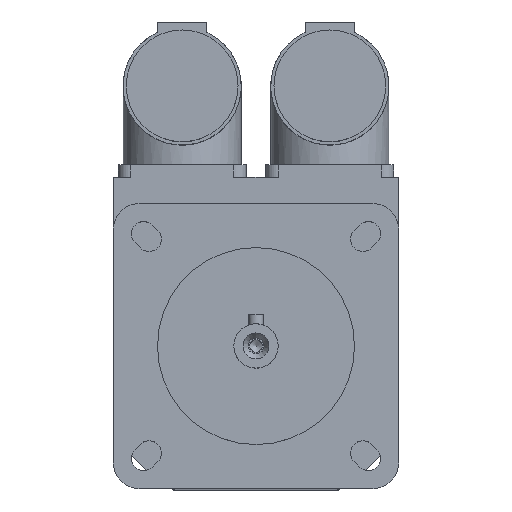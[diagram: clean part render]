
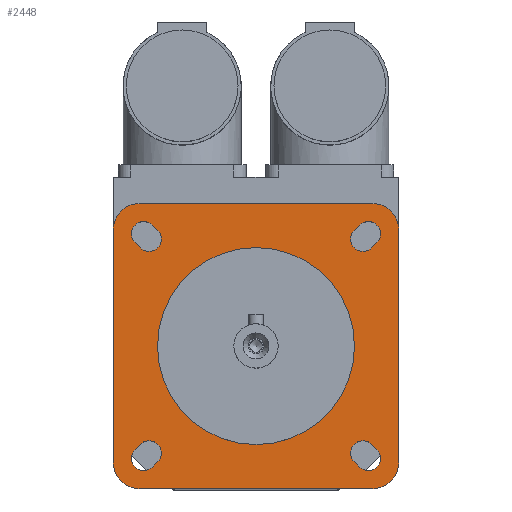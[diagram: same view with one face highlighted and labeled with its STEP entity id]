
A CAD part, top view. The second image highlights one B-rep face of the part: STEP entity #2448.
In plain terms, the highlighted planar face has unit normal (0, 0, 1).
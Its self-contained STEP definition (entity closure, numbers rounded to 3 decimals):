
#94=LINE('',#3819,#315);
#102=LINE('',#3843,#323);
#106=LINE('',#3853,#327);
#110=LINE('',#3863,#331);
#126=LINE('',#3914,#347);
#128=LINE('',#3920,#349);
#130=LINE('',#3926,#351);
#132=LINE('',#3932,#353);
#141=LINE('',#3960,#362);
#142=LINE('',#3961,#363);
#143=LINE('',#3962,#364);
#144=LINE('',#3963,#365);
#315=VECTOR('',#3029,1.5);
#323=VECTOR('',#3051,1.5);
#327=VECTOR('',#3061,1.5);
#331=VECTOR('',#3071,1.5);
#347=VECTOR('',#3117,1.5);
#349=VECTOR('',#3125,1.5);
#351=VECTOR('',#3133,1.5);
#353=VECTOR('',#3141,1.5);
#362=VECTOR('',#3172,47.);
#363=VECTOR('',#3173,47.);
#364=VECTOR('',#3174,47.);
#365=VECTOR('',#3175,47.);
#512=PLANE('',#2661);
#623=FACE_BOUND('',#851,.T.);
#624=FACE_BOUND('',#852,.T.);
#625=FACE_BOUND('',#853,.T.);
#626=FACE_BOUND('',#854,.T.);
#627=FACE_BOUND('',#855,.T.);
#699=FACE_OUTER_BOUND('',#850,.T.);
#850=EDGE_LOOP('',(#1958,#1959,#1960,#1961,#1962,#1963,#1964,#1965));
#851=EDGE_LOOP('',(#1966));
#852=EDGE_LOOP('',(#1967,#1968,#1969,#1970));
#853=EDGE_LOOP('',(#1971,#1972,#1973,#1974));
#854=EDGE_LOOP('',(#1975,#1976,#1977,#1978));
#855=EDGE_LOOP('',(#1979,#1980,#1981,#1982));
#950=CIRCLE('',#2551,20.);
#987=CIRCLE('',#2615,2.5);
#991=CIRCLE('',#2622,2.5);
#992=CIRCLE('',#2625,2.5);
#993=CIRCLE('',#2628,2.5);
#1003=CIRCLE('',#2643,2.5);
#1004=CIRCLE('',#2646,2.5);
#1005=CIRCLE('',#2649,2.5);
#1006=CIRCLE('',#2652,2.5);
#1007=CIRCLE('',#2654,5.5);
#1008=CIRCLE('',#2656,5.5);
#1009=CIRCLE('',#2658,5.5);
#1010=CIRCLE('',#2660,5.5);
#1078=VERTEX_POINT('',#3640);
#1143=VERTEX_POINT('',#3816);
#1144=VERTEX_POINT('',#3818);
#1145=VERTEX_POINT('',#3822);
#1152=VERTEX_POINT('',#3840);
#1153=VERTEX_POINT('',#3842);
#1154=VERTEX_POINT('',#3846);
#1155=VERTEX_POINT('',#3850);
#1156=VERTEX_POINT('',#3852);
#1157=VERTEX_POINT('',#3856);
#1158=VERTEX_POINT('',#3860);
#1159=VERTEX_POINT('',#3862);
#1160=VERTEX_POINT('',#3866);
#1179=VERTEX_POINT('',#3912);
#1180=VERTEX_POINT('',#3918);
#1181=VERTEX_POINT('',#3924);
#1182=VERTEX_POINT('',#3930);
#1183=VERTEX_POINT('',#3936);
#1184=VERTEX_POINT('',#3938);
#1185=VERTEX_POINT('',#3942);
#1186=VERTEX_POINT('',#3944);
#1187=VERTEX_POINT('',#3948);
#1188=VERTEX_POINT('',#3950);
#1189=VERTEX_POINT('',#3954);
#1190=VERTEX_POINT('',#3956);
#1324=EDGE_CURVE('',#1078,#1078,#950,.T.);
#1410=EDGE_CURVE('',#1144,#1143,#94,.T.);
#1413=EDGE_CURVE('',#1143,#1145,#987,.T.);
#1422=EDGE_CURVE('',#1153,#1152,#102,.T.);
#1425=EDGE_CURVE('',#1152,#1154,#991,.T.);
#1427=EDGE_CURVE('',#1156,#1155,#106,.T.);
#1430=EDGE_CURVE('',#1155,#1157,#992,.T.);
#1432=EDGE_CURVE('',#1159,#1158,#110,.T.);
#1435=EDGE_CURVE('',#1158,#1160,#993,.T.);
#1458=EDGE_CURVE('',#1157,#1179,#126,.T.);
#1459=EDGE_CURVE('',#1179,#1156,#1003,.T.);
#1461=EDGE_CURVE('',#1154,#1180,#128,.T.);
#1462=EDGE_CURVE('',#1180,#1153,#1004,.T.);
#1464=EDGE_CURVE('',#1160,#1181,#130,.T.);
#1465=EDGE_CURVE('',#1181,#1159,#1005,.T.);
#1467=EDGE_CURVE('',#1145,#1182,#132,.T.);
#1468=EDGE_CURVE('',#1182,#1144,#1006,.T.);
#1470=EDGE_CURVE('',#1184,#1183,#1007,.T.);
#1473=EDGE_CURVE('',#1186,#1185,#1008,.T.);
#1476=EDGE_CURVE('',#1188,#1187,#1009,.T.);
#1479=EDGE_CURVE('',#1190,#1189,#1010,.T.);
#1481=EDGE_CURVE('',#1183,#1190,#141,.T.);
#1482=EDGE_CURVE('',#1189,#1188,#142,.T.);
#1483=EDGE_CURVE('',#1187,#1186,#143,.T.);
#1484=EDGE_CURVE('',#1185,#1184,#144,.T.);
#1958=ORIENTED_EDGE('',*,*,#1481,.T.);
#1959=ORIENTED_EDGE('',*,*,#1479,.T.);
#1960=ORIENTED_EDGE('',*,*,#1482,.T.);
#1961=ORIENTED_EDGE('',*,*,#1476,.T.);
#1962=ORIENTED_EDGE('',*,*,#1483,.T.);
#1963=ORIENTED_EDGE('',*,*,#1473,.T.);
#1964=ORIENTED_EDGE('',*,*,#1484,.T.);
#1965=ORIENTED_EDGE('',*,*,#1470,.T.);
#1966=ORIENTED_EDGE('',*,*,#1324,.T.);
#1967=ORIENTED_EDGE('',*,*,#1458,.T.);
#1968=ORIENTED_EDGE('',*,*,#1459,.T.);
#1969=ORIENTED_EDGE('',*,*,#1427,.T.);
#1970=ORIENTED_EDGE('',*,*,#1430,.T.);
#1971=ORIENTED_EDGE('',*,*,#1461,.T.);
#1972=ORIENTED_EDGE('',*,*,#1462,.T.);
#1973=ORIENTED_EDGE('',*,*,#1422,.T.);
#1974=ORIENTED_EDGE('',*,*,#1425,.T.);
#1975=ORIENTED_EDGE('',*,*,#1464,.T.);
#1976=ORIENTED_EDGE('',*,*,#1465,.T.);
#1977=ORIENTED_EDGE('',*,*,#1432,.T.);
#1978=ORIENTED_EDGE('',*,*,#1435,.T.);
#1979=ORIENTED_EDGE('',*,*,#1467,.T.);
#1980=ORIENTED_EDGE('',*,*,#1468,.T.);
#1981=ORIENTED_EDGE('',*,*,#1410,.T.);
#1982=ORIENTED_EDGE('',*,*,#1413,.T.);
#2448=ADVANCED_FACE('',(#699,#623,#624,#625,#626,#627),#512,.T.);
#2551=AXIS2_PLACEMENT_3D('',#3641,#2854,#2855);
#2615=AXIS2_PLACEMENT_3D('',#3824,#3034,#3035);
#2622=AXIS2_PLACEMENT_3D('',#3848,#3056,#3057);
#2625=AXIS2_PLACEMENT_3D('',#3858,#3066,#3067);
#2628=AXIS2_PLACEMENT_3D('',#3868,#3076,#3077);
#2643=AXIS2_PLACEMENT_3D('',#3916,#3120,#3121);
#2646=AXIS2_PLACEMENT_3D('',#3922,#3128,#3129);
#2649=AXIS2_PLACEMENT_3D('',#3928,#3136,#3137);
#2652=AXIS2_PLACEMENT_3D('',#3934,#3144,#3145);
#2654=AXIS2_PLACEMENT_3D('',#3939,#3149,#3150);
#2656=AXIS2_PLACEMENT_3D('',#3945,#3155,#3156);
#2658=AXIS2_PLACEMENT_3D('',#3951,#3161,#3162);
#2660=AXIS2_PLACEMENT_3D('',#3957,#3167,#3168);
#2661=AXIS2_PLACEMENT_3D('',#3959,#3170,#3171);
#2854=DIRECTION('center_axis',(0.,0.,-1.));
#2855=DIRECTION('ref_axis',(-1.,0.,0.));
#3029=DIRECTION('',(-0.707,-0.707,0.));
#3034=DIRECTION('center_axis',(0.,0.,-1.));
#3035=DIRECTION('ref_axis',(0.707,-0.707,0.));
#3051=DIRECTION('',(-0.707,0.707,0.));
#3056=DIRECTION('center_axis',(0.,0.,-1.));
#3057=DIRECTION('ref_axis',(-0.707,-0.707,0.));
#3061=DIRECTION('',(-0.707,-0.707,0.));
#3066=DIRECTION('center_axis',(0.,0.,-1.));
#3067=DIRECTION('ref_axis',(0.707,-0.707,0.));
#3071=DIRECTION('',(-0.707,0.707,0.));
#3076=DIRECTION('center_axis',(0.,0.,-1.));
#3077=DIRECTION('ref_axis',(-0.707,-0.707,0.));
#3117=DIRECTION('',(0.707,0.707,0.));
#3120=DIRECTION('center_axis',(0.,0.,-1.));
#3121=DIRECTION('ref_axis',(-0.707,0.707,0.));
#3125=DIRECTION('',(0.707,-0.707,0.));
#3128=DIRECTION('center_axis',(0.,0.,-1.));
#3129=DIRECTION('ref_axis',(0.707,0.707,0.));
#3133=DIRECTION('',(0.707,-0.707,0.));
#3136=DIRECTION('center_axis',(0.,0.,-1.));
#3137=DIRECTION('ref_axis',(0.707,0.707,0.));
#3141=DIRECTION('',(0.707,0.707,0.));
#3144=DIRECTION('center_axis',(0.,0.,-1.));
#3145=DIRECTION('ref_axis',(-0.707,0.707,0.));
#3149=DIRECTION('center_axis',(0.,0.,1.));
#3150=DIRECTION('ref_axis',(1.,0.,0.));
#3155=DIRECTION('center_axis',(0.,0.,1.));
#3156=DIRECTION('ref_axis',(0.,-1.,0.));
#3161=DIRECTION('center_axis',(0.,0.,1.));
#3162=DIRECTION('ref_axis',(-1.,0.,0.));
#3167=DIRECTION('center_axis',(0.,0.,1.));
#3168=DIRECTION('ref_axis',(0.,1.,0.));
#3170=DIRECTION('center_axis',(0.,0.,1.));
#3171=DIRECTION('ref_axis',(1.,0.,0.));
#3172=DIRECTION('',(-1.,0.,0.));
#3173=DIRECTION('',(0.,-1.,0.));
#3174=DIRECTION('',(1.,0.,0.));
#3175=DIRECTION('',(0.,1.,0.));
#3640=CARTESIAN_POINT('',(20.,0.,116.5));
#3641=CARTESIAN_POINT('Origin',(0.,0.,116.5));
#3816=CARTESIAN_POINT('',(-21.036,-24.572,116.5));
#3818=CARTESIAN_POINT('',(-19.976,-23.511,116.5));
#3819=CARTESIAN_POINT('',(-9.634,-13.17,116.5));
#3822=CARTESIAN_POINT('',(-24.572,-21.036,116.5));
#3824=CARTESIAN_POINT('Origin',(-22.804,-22.804,116.5));
#3840=CARTESIAN_POINT('',(-24.572,21.036,116.5));
#3842=CARTESIAN_POINT('',(-23.511,19.976,116.5));
#3843=CARTESIAN_POINT('',(-13.17,9.634,116.5));
#3846=CARTESIAN_POINT('',(-21.036,24.572,116.5));
#3848=CARTESIAN_POINT('Origin',(-22.804,22.804,116.5));
#3850=CARTESIAN_POINT('',(23.511,19.976,116.5));
#3852=CARTESIAN_POINT('',(24.572,21.036,116.5));
#3853=CARTESIAN_POINT('',(12.64,9.104,116.5));
#3856=CARTESIAN_POINT('',(19.976,23.511,116.5));
#3858=CARTESIAN_POINT('Origin',(21.744,21.744,116.5));
#3860=CARTESIAN_POINT('',(19.976,-23.511,116.5));
#3862=CARTESIAN_POINT('',(21.036,-24.572,116.5));
#3863=CARTESIAN_POINT('',(9.104,-12.64,116.5));
#3866=CARTESIAN_POINT('',(23.511,-19.976,116.5));
#3868=CARTESIAN_POINT('Origin',(21.744,-21.744,116.5));
#3912=CARTESIAN_POINT('',(21.036,24.572,116.5));
#3914=CARTESIAN_POINT('',(9.634,13.17,116.5));
#3916=CARTESIAN_POINT('Origin',(22.804,22.804,116.5));
#3918=CARTESIAN_POINT('',(-19.976,23.511,116.5));
#3920=CARTESIAN_POINT('',(-9.104,12.64,116.5));
#3922=CARTESIAN_POINT('Origin',(-21.744,21.744,116.5));
#3924=CARTESIAN_POINT('',(24.572,-21.036,116.5));
#3926=CARTESIAN_POINT('',(13.17,-9.634,116.5));
#3928=CARTESIAN_POINT('Origin',(22.804,-22.804,116.5));
#3930=CARTESIAN_POINT('',(-23.511,-19.976,116.5));
#3932=CARTESIAN_POINT('',(-12.64,-9.104,116.5));
#3934=CARTESIAN_POINT('Origin',(-21.744,-21.744,116.5));
#3936=CARTESIAN_POINT('',(23.5,29.,116.5));
#3938=CARTESIAN_POINT('',(29.,23.5,116.5));
#3939=CARTESIAN_POINT('Origin',(23.5,23.5,116.5));
#3942=CARTESIAN_POINT('',(29.,-23.5,116.5));
#3944=CARTESIAN_POINT('',(23.5,-29.,116.5));
#3945=CARTESIAN_POINT('Origin',(23.5,-23.5,116.5));
#3948=CARTESIAN_POINT('',(-23.5,-29.,116.5));
#3950=CARTESIAN_POINT('',(-29.,-23.5,116.5));
#3951=CARTESIAN_POINT('Origin',(-23.5,-23.5,116.5));
#3954=CARTESIAN_POINT('',(-29.,23.5,116.5));
#3956=CARTESIAN_POINT('',(-23.5,29.,116.5));
#3957=CARTESIAN_POINT('Origin',(-23.5,23.5,116.5));
#3959=CARTESIAN_POINT('Origin',(0.,0.,
116.5));
#3960=CARTESIAN_POINT('',(23.5,29.,116.5));
#3961=CARTESIAN_POINT('',(-29.,23.5,116.5));
#3962=CARTESIAN_POINT('',(-23.5,-29.,116.5));
#3963=CARTESIAN_POINT('',(29.,-23.5,116.5));
